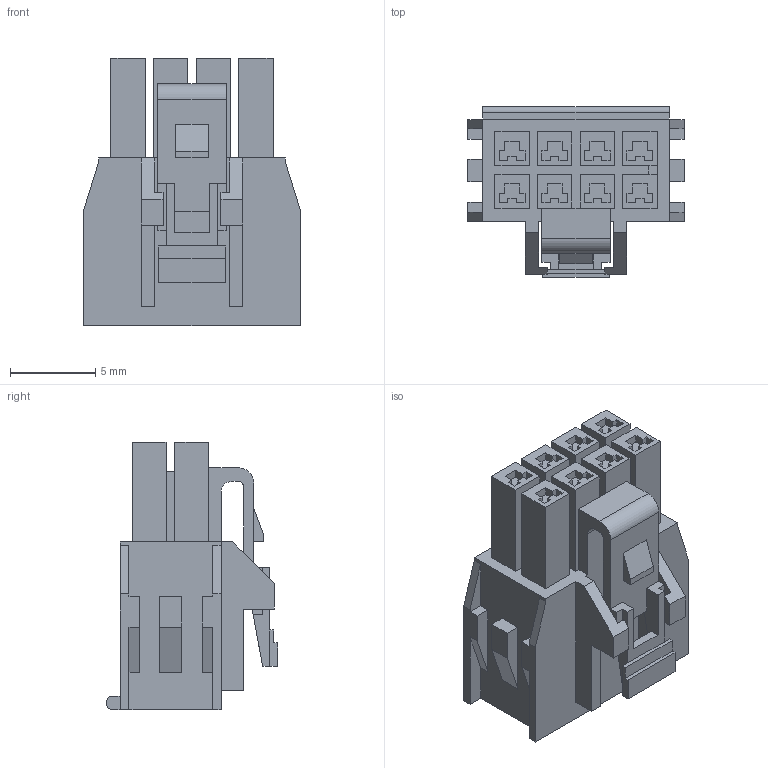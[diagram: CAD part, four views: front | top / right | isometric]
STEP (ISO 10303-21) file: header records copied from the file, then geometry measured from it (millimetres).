
FILE_DESCRIPTION (( 'STEP AP203' ), '1' );
FILE_NAME ('GT-A2513HM-208B01.STEP', '2026-06-18T09:37:54', ( '' ), ( '' ), 'SwSTEP 2.0', 'SolidWorks 2020', '' );
FILE_SCHEMA (( 'CONFIG_CONTROL_DESIGN' ));
Length unit declared in the file: millimetre
Products named in the file (1): GT-A2513HM-208B01
Bounding box: 12.7 x 10.04 x 15.7 mm (x, y, z)
Volume: 912.8 mm3; surface area: 1231.8 mm2
Topology: 1 solids, 1 shells, 587 faces, 1621 edges, 1080 vertices
Faces by surface type: plane 511, bspline 71, cylinder 5
Entity records: 21900 total; most frequent: CARTESIAN_POINT 7296, ORIENTED_EDGE 3242, DIRECTION 2523, EDGE_CURVE 1621, VECTOR 1469, LINE 1469, VERTEX_POINT 1080, EDGE_LOOP 633
